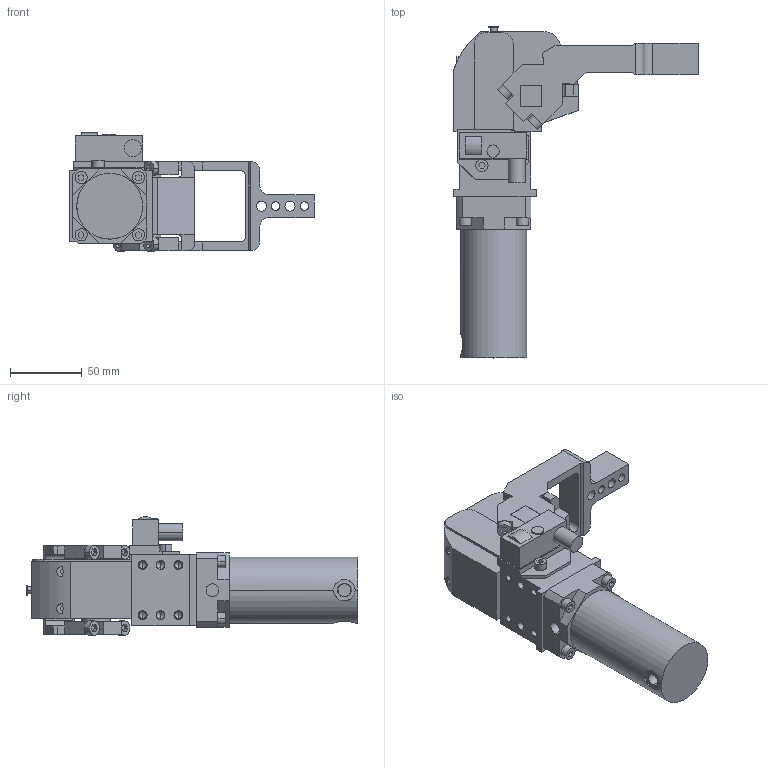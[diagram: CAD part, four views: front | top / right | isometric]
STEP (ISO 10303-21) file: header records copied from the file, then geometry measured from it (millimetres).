
FILE_DESCRIPTION (( 'STEP AP214' ), '1' );
FILE_NAME ('g40.1_gv.STEP', '2014-03-17T09:48:22', ( 'vep' ), ( 'TOSHIBA' ), 'SwSTEP 2.0', 'SolidWorks 2013', '' );
FILE_SCHEMA (( 'AUTOMOTIVE_DESIGN' ));
Length unit declared in the file: millimetre
Products named in the file (5): g40.1_gv; g40.1_corpo; g40.1_cilindro; blocchetto_p&f_90; g40.1_leva_gv
Assembly tree (4 placements, depth 2):
  g40.1_gv
    g40.1_corpo
    g40.1_cilindro
    blocchetto_p&f_90
    g40.1_leva_gv
Bounding box: 171 x 232 x 82.8 mm (x, y, z)
Volume: 611610 mm3; surface area: 96387.8 mm2
Topology: 4 solids, 4 shells, 456 faces, 1168 edges, 727 vertices
Faces by surface type: plane 299, cylinder 105, cone 52
Entity records: 14822 total; most frequent: CARTESIAN_POINT 2568, DIRECTION 2348, ORIENTED_EDGE 2288, EDGE_CURVE 1144, LINE 842, VECTOR 842, AXIS2_PLACEMENT_3D 753, VERTEX_POINT 727
